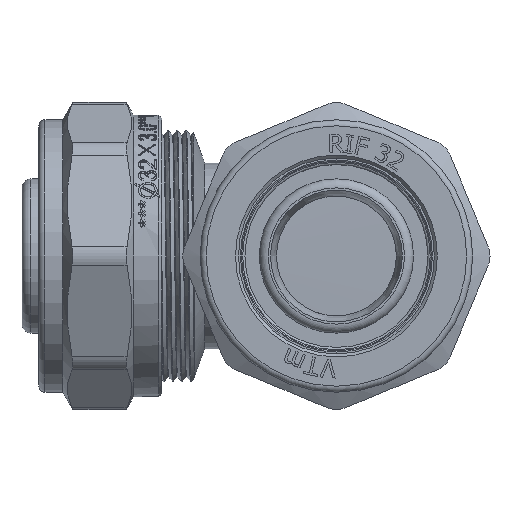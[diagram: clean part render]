
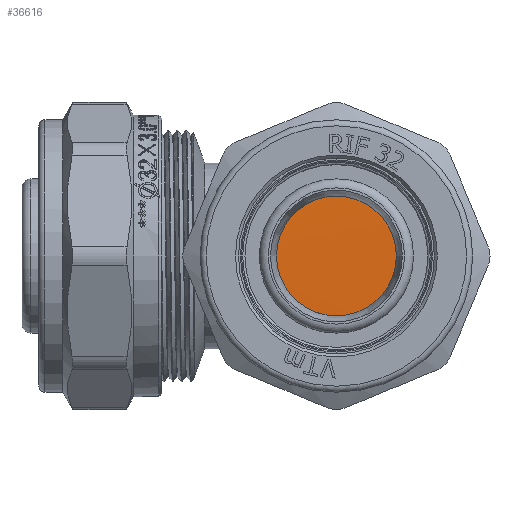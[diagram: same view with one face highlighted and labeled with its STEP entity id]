
A CAD part, left-side view. The second image highlights one B-rep face of the part: STEP entity #36616.
In plain terms, the highlighted cylindrical face has radius 21 mm (diameter 42 mm), a full revolution.
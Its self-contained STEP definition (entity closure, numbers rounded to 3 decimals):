
#2020=CYLINDRICAL_SURFACE('',#38710,21.);
#2280=FACE_OUTER_BOUND('',#4351,.T.);
#4351=EDGE_LOOP('',(#24831,#24832,#24833));
#7454=B_SPLINE_CURVE_WITH_KNOTS('',3,(#47429,#47430,#47431,#47432,#47433,
#47434,#47435,#47436,#47437,#47438,#47439,#47440,#47441,#47442,#47443,#47444,
#47445),.UNSPECIFIED.,.F.,.F.,(4,1,1,1,1,1,1,1,1,1,1,1,1,1,4),(37.699,
37.812,38.309,38.807,39.304,39.801,
40.298,40.795,41.292,41.789,42.286,
42.783,43.28,43.777,43.982),
 .UNSPECIFIED.);
#9919=LINE('',#46896,#12414);
#9934=LINE('',#47428,#12429);
#12414=VECTOR('',#40498,21.);
#12429=VECTOR('',#40545,21.);
#14911=VERTEX_POINT('',#46894);
#14912=VERTEX_POINT('',#46895);
#14944=VERTEX_POINT('',#47427);
#18885=EDGE_CURVE('',#14911,#14912,#9919,.T.);
#18929=EDGE_CURVE('',#14944,#14912,#9934,.T.);
#18930=EDGE_CURVE('',#14944,#14911,#7454,.T.);
#24831=ORIENTED_EDGE('',*,*,#18885,.T.);
#24832=ORIENTED_EDGE('',*,*,#18929,.F.);
#24833=ORIENTED_EDGE('',*,*,#18930,.T.);
#36616=ADVANCED_FACE('',(#2280),#2020,.T.);
#38710=AXIS2_PLACEMENT_3D('',#47426,#40543,#40544);
#40498=DIRECTION('',(-1.,0.,0.));
#40543=DIRECTION('center_axis',(-1.,0.,0.));
#40544=DIRECTION('ref_axis',(0.,-1.,0.));
#40545=DIRECTION('',(1.,0.,0.));
#46894=CARTESIAN_POINT('',(-25.5,21.,0.));
#46895=CARTESIAN_POINT('',(-26.9,21.,0.));
#46896=CARTESIAN_POINT('',(-29.626,21.,0.));
#47426=CARTESIAN_POINT('Origin',(-29.626,0.,
0.));
#47427=CARTESIAN_POINT('',(-27.,21.,0.));
#47428=CARTESIAN_POINT('',(-29.626,21.,0.));
#47429=CARTESIAN_POINT('Ctrl Pts',(-27.,21.,0.001));
#47430=CARTESIAN_POINT('Ctrl Pts',(-26.991,21.001,0.794));
#47431=CARTESIAN_POINT('Ctrl Pts',(-26.942,20.763,5.065));
#47432=CARTESIAN_POINT('Ctrl Pts',(-26.854,17.933,12.543));
#47433=CARTESIAN_POINT('Ctrl Pts',(-26.736,9.782,19.577));
#47434=CARTESIAN_POINT('Ctrl Pts',(-26.617,-0.737,
21.872));
#47435=CARTESIAN_POINT('Ctrl Pts',(-26.498,-11.077,
18.874));
#47436=CARTESIAN_POINT('Ctrl Pts',(-26.38,-18.737,
11.308));
#47437=CARTESIAN_POINT('Ctrl Pts',(-26.261,-21.861,
1.005));
#47438=CARTESIAN_POINT('Ctrl Pts',(-26.142,-19.695,
-9.541));
#47439=CARTESIAN_POINT('Ctrl Pts',(-26.024,-12.762,-17.778));
#47440=CARTESIAN_POINT('Ctrl Pts',(-25.905,-2.74,
-21.712));
#47441=CARTESIAN_POINT('Ctrl Pts',(-25.786,7.945,-20.392));
#47442=CARTESIAN_POINT('Ctrl Pts',(-25.668,16.707,-14.136));
#47443=CARTESIAN_POINT('Ctrl Pts',(-25.572,20.502,-6.353));
#47444=CARTESIAN_POINT('Ctrl Pts',(-25.516,20.999,-1.437));
#47445=CARTESIAN_POINT('Ctrl Pts',(-25.5,20.998,0.));
